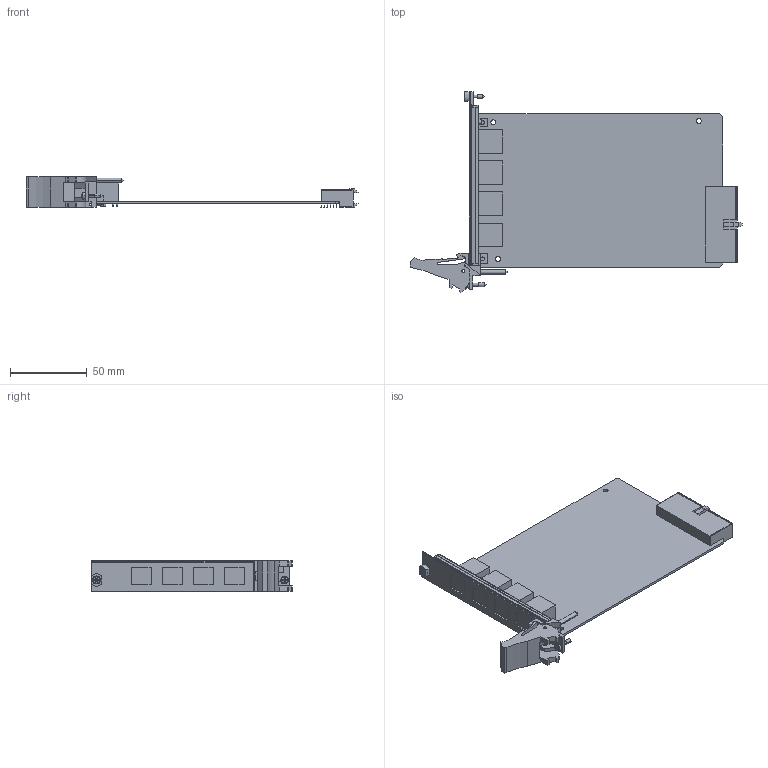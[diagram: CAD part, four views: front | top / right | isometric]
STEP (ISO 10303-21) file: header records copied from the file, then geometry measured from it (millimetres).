
FILE_DESCRIPTION((''),'2;1');
FILE_NAME('CU_PXI-8432-8434','2008-04-22T',('dcrowder'),(''),'PRO/ENGINEER BY PARAMETRIC TECHNOLOGY CORPORATION, 2006080','PRO/ENGINEER BY PARAMETRIC TECHNOLOGY CORPORATION, 2006080','');
FILE_SCHEMA(('CONFIG_CONTROL_DESIGN'));
Length unit declared in the file: inch
Products named in the file (1): CU_PXI-8432-8434
Bounding box: 216.08 x 130.5 x 20.49 mm (x, y, z)
Volume: 63960.3 mm3; surface area: 54031.5 mm2
Topology: 2 solids, 3 shells, 677 faces, 1698 edges, 1111 vertices
Faces by surface type: plane 418, cylinder 237, cone 10, sphere 8, torus 4
Entity records: 20602 total; most frequent: CARTESIAN_POINT 3802, DIRECTION 3569, ORIENTED_EDGE 3388, EDGE_CURVE 1694, AXIS2_PLACEMENT_3D 1229, VECTOR 1111, LINE 1111, VERTEX_POINT 1111
